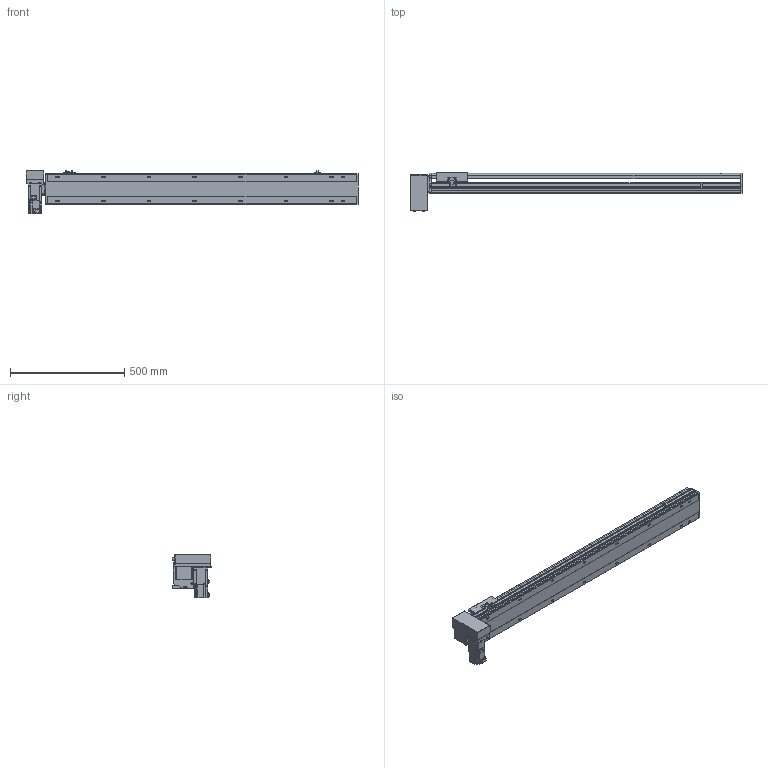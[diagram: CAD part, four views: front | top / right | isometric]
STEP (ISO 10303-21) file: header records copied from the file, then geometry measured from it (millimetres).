
FILE_DESCRIPTION( ( 'STEP AP214' ), '1' );
FILE_NAME( 'x:/temp/worker_6/temp/exporttempdir_5396_173_qo4Xu/format_0/PBS140S-P40-S1100-RD-T40-C1-N(0).stp', '2022-06-09T00:43:13', ( 'License CC BY-ND 4.0' ), ( 'CADENAS' ), ' ', 'PARTsolutions', ' ' );
FILE_SCHEMA( ( 'AUTOMOTIVE_DESIGN { 1 0 10303 214 1 1 1 1 }' ) );
Length unit declared in the file: millimetre
Products named in the file (7): PBS140S-P40-S1100-RD-T40-C1-N(0); _PBS140S-S1100()_body; _PBS140ST-RD_motors; _T40-p1; _PBS140S_sliser; _PBS140S_plant; _PBS140S_sensor
Assembly tree (8 placements, depth 2):
  PBS140S-P40-S1100-RD-T40-C1-N(0)
    _PBS140S-S1100()_body
    _PBS140ST-RD_motors
    _T40-p1
    _PBS140S_sliser
    _PBS140S_plant
    _PBS140S_sensor  x3
Bounding box: 1454 x 172.5 x 189.7 mm (x, y, z)
Volume: 7493259.3 mm3; surface area: 1294256.9 mm2
Topology: 8 solids, 8 shells, 1099 faces, 2911 edges, 1905 vertices
Faces by surface type: plane 702, cylinder 345, cone 42, sphere 8, torus 2
Full cylindrical faces by diameter (mm): 3.242 x4, 4 x2, 4.134 x4, 4.4 x8, 4.5 x2, 4.8 x4, 4.917 x24, 5.5 x7, 6 x2, 7 x18, 7.5 x8, 8 x12, 8.5 x4, 10.5 x16, 14 x1, 30 x2, 50 x2
Entity records: 40336 total; most frequent: CARTESIAN_POINT 6406, DIRECTION 5348, ORIENTED_EDGE 5062, EDGE_CURVE 2531, AXIS2_PLACEMENT_3D 1859, VERTEX_POINT 1753, LINE 1630, VECTOR 1630
